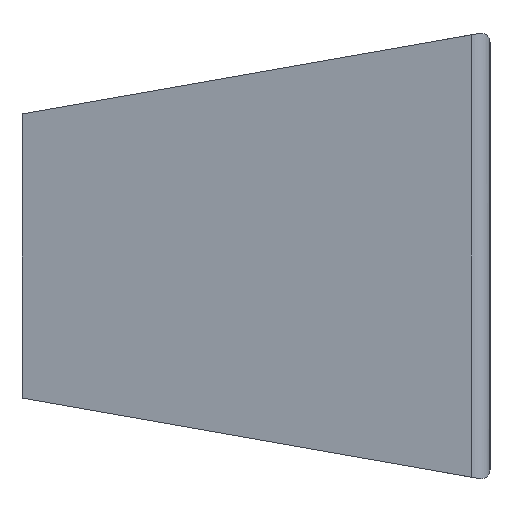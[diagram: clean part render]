
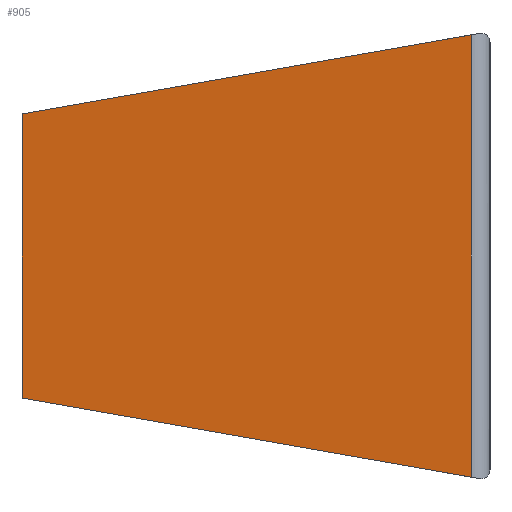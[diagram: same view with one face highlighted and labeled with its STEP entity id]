
A CAD part, left-side view. The second image highlights one B-rep face of the part: STEP entity #905.
In plain terms, the highlighted planar face has unit normal (-0.99, 0.139, 0).
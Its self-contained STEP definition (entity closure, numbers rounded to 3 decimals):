
#473 = VERTEX_POINT( '', #1314 );
#505 = EDGE_CURVE( '', #1055, #1133, #1348, .T. );
#555 = EDGE_CURVE( '', #1113, #473, #1401, .T. );
#905 = ADVANCED_FACE( '', ( #1794 ), #1795, .T. );
#979 = EDGE_CURVE( '', #1113, #1055, #1875, .T. );
#1019 = EDGE_CURVE( '', #1133, #473, #1919, .T. );
#1055 = VERTEX_POINT( '', #1958 );
#1113 = VERTEX_POINT( '', #2022 );
#1133 = VERTEX_POINT( '', #2043 );
#1314 = CARTESIAN_POINT( '', ( -7.363, -24., -11.817 ) );
#1348 = LINE( '', #2292, #2293 );
#1401 = LINE( '', #2369, #2370 );
#1794 = FACE_OUTER_BOUND( '', #2918, .T. );
#1795 = PLANE( '', #2919 );
#1875 = LINE( '', #3041, #3042 );
#1919 = LINE( '', #3100, #3101 );
#1958 = CARTESIAN_POINT( '', ( -4., 0., 7.59 ) );
#2022 = CARTESIAN_POINT( '', ( -7.363, -24., 11.817 ) );
#2043 = CARTESIAN_POINT( '', ( -4., 0., -7.59 ) );
#2292 = CARTESIAN_POINT( '', ( -4., 0., 12.5 ) );
#2293 = VECTOR( '', #3537, 1. );
#2369 = CARTESIAN_POINT( '', ( -7.363, -24., 12.5 ) );
#2370 = VECTOR( '', #3581, 1. );
#2918 = EDGE_LOOP( '', ( #4082, #4083, #4084, #4085 ) );
#2919 = AXIS2_PLACEMENT_3D( '', #4086, #4087, #4088 );
#3041 = CARTESIAN_POINT( '', ( -3.705, 2.105, 7.219 ) );
#3042 = VECTOR( '', #4160, 1. );
#3100 = CARTESIAN_POINT( '', ( -1.727, 16.221, -4.733 ) );
#3101 = VECTOR( '', #4212, 1. );
#3537 = DIRECTION( '', ( 0., 0., -1. ) );
#3581 = DIRECTION( '', ( 0., 0., -1. ) );
#4082 = ORIENTED_EDGE( '', *, *, #979, .T. );
#4083 = ORIENTED_EDGE( '', *, *, #505, .T. );
#4084 = ORIENTED_EDGE( '', *, *, #1019, .T. );
#4085 = ORIENTED_EDGE( '', *, *, #555, .F. );
#4086 = CARTESIAN_POINT( '', ( -4., 0., 12.5 ) );
#4087 = DIRECTION( '', ( -0.99, 0.139, 0. ) );
#4088 = DIRECTION( '', ( 0.139, 0.99, 0. ) );
#4160 = DIRECTION( '', ( 0.137, 0.976, -0.172 ) );
#4212 = DIRECTION( '', ( -0.137, -0.976, -0.172 ) );
